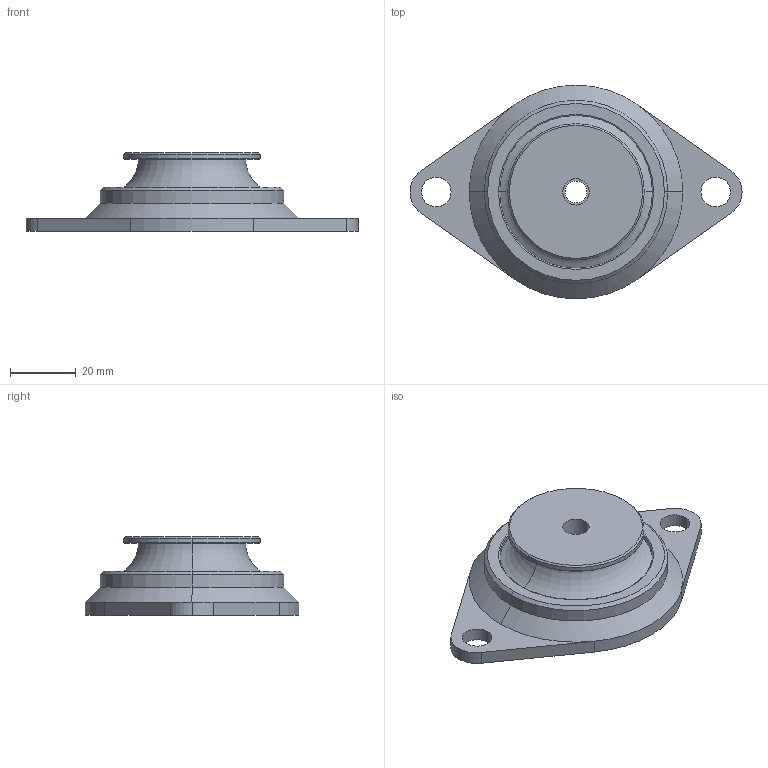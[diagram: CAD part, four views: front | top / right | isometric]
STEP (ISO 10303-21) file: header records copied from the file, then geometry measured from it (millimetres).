
FILE_DESCRIPTION(('STEP AP214'),'1');
FILE_NAME('U:/Inhalte (Daten)/Content neue Seite/CAD Files/EluFlex_60_SF.stp','2014-08-27T14:34:37',(' '),(' '),'Spatial InterOp 3D',' ',' ');
FILE_SCHEMA(('automotive_design'));
Length unit declared in the file: millimetre
Products named in the file (1): 1
Bounding box: 101 x 65 x 24 mm (x, y, z)
Volume: 44447.4 mm3; surface area: 14165.8 mm2
Topology: 1 solids, 2 shells, 65 faces, 142 edges, 84 vertices
Faces by surface type: cylinder 26, torus 14, plane 13, cone 12
Entity records: 1821 total; most frequent: DIRECTION 366, CARTESIAN_POINT 292, ORIENTED_EDGE 284, AXIS2_PLACEMENT_3D 158, EDGE_CURVE 142, CIRCLE 92, VERTEX_POINT 84, EDGE_LOOP 76
